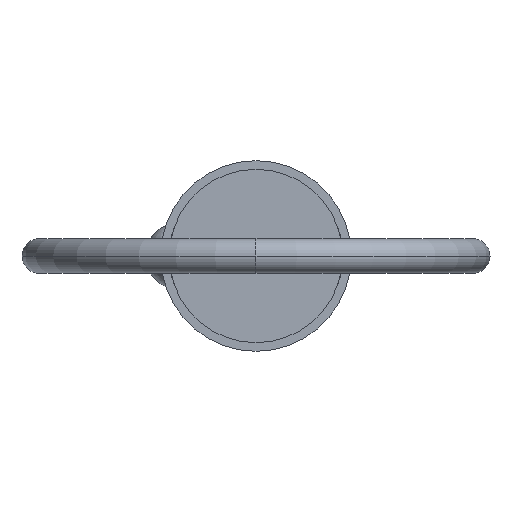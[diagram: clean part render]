
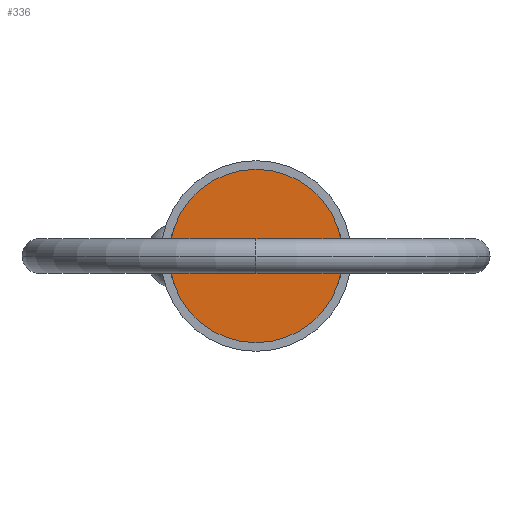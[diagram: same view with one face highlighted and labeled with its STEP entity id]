
A CAD part, left-side view. The second image highlights one B-rep face of the part: STEP entity #336.
In plain terms, the highlighted planar face has unit normal (-1, 0, 0).
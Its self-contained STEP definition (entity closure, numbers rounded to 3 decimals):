
#5 = AXIS2_PLACEMENT_3D ( 'NONE', #377, #214, #557 ) ;
#34 = CARTESIAN_POINT ( 'NONE',  ( 0., 0., 0. ) ) ;
#63 = EDGE_CURVE ( 'NONE', #138, #644, #655, .T. ) ;
#133 = CARTESIAN_POINT ( 'NONE',  ( 0., 0., -12.7 ) ) ;
#138 = VERTEX_POINT ( 'NONE', #133 ) ;
#149 = PLANE ( 'NONE',  #244 ) ;
#214 = DIRECTION ( 'NONE',  ( 1., 0., 0. ) ) ;
#234 = CARTESIAN_POINT ( 'NONE',  ( 0., 0., 0. ) ) ;
#244 = AXIS2_PLACEMENT_3D ( 'NONE', #234, #827, #662 ) ;
#336 = ADVANCED_FACE ( 'NONE', ( #484 ), #149, .T. ) ;
#344 = DIRECTION ( 'NONE',  ( 0., 0., -1. ) ) ;
#377 = CARTESIAN_POINT ( 'NONE',  ( 0., 0., 0. ) ) ;
#440 = CARTESIAN_POINT ( 'NONE',  ( 0., 0., 12.7 ) ) ;
#475 = ORIENTED_EDGE ( 'NONE', *, *, #850, .F. ) ;
#484 = FACE_OUTER_BOUND ( 'NONE', #821, .T. ) ;
#524 = DIRECTION ( 'NONE',  ( 1., 0., 0. ) ) ;
#557 = DIRECTION ( 'NONE',  ( 0., 0., -1. ) ) ;
#618 = AXIS2_PLACEMENT_3D ( 'NONE', #34, #524, #344 ) ;
#644 = VERTEX_POINT ( 'NONE', #440 ) ;
#655 = CIRCLE ( 'NONE', #618, 12.7 ) ;
#662 = DIRECTION ( 'NONE',  ( 0., 0., 1. ) ) ;
#689 = CIRCLE ( 'NONE', #5, 12.7 ) ;
#821 = EDGE_LOOP ( 'NONE', ( #833, #475 ) ) ;
#827 = DIRECTION ( 'NONE',  ( -1., 0., 0. ) ) ;
#833 = ORIENTED_EDGE ( 'NONE', *, *, #63, .F. ) ;
#850 = EDGE_CURVE ( 'NONE', #644, #138, #689, .T. ) ;
